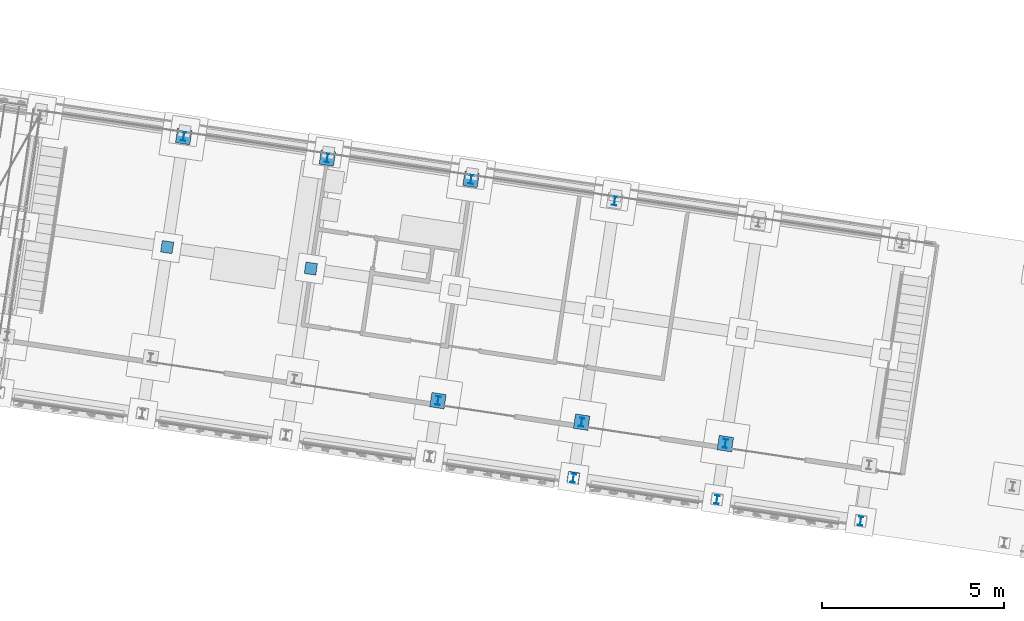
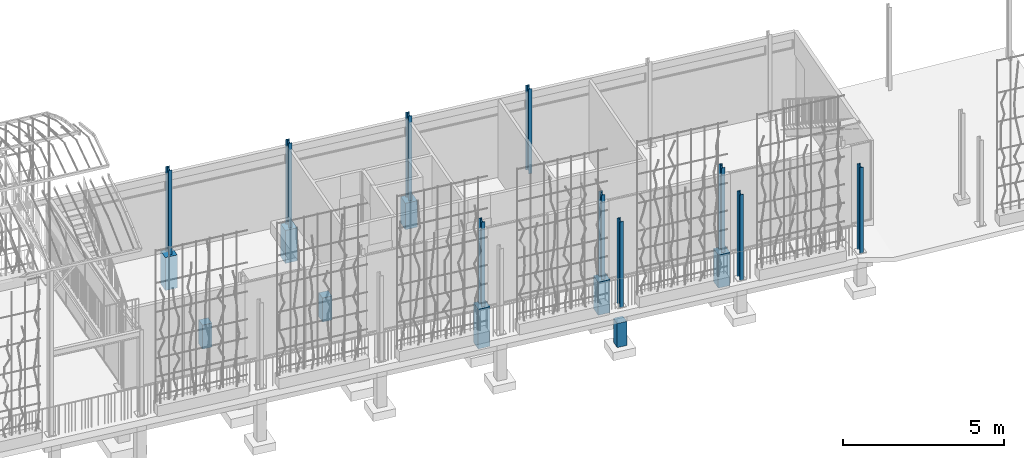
# One storey, part 4 of 142: 19 columns, 1 element without a shape of its own.
"""IFC4 building model written with IfcOpenShell, lengths in metres."""

from ifc_helpers import new_model, si_unit, direction, frame, origin_with_axes, place, context, subcontext, project, spatial, polyline, i_section, outline, extrude, material, material_profile, profile_set, profile_usage, type_object, element, aggregate, save


model = new_model("IFC4")

# Units and contexts
model_context = context("Model", 3, precision=1e-05, world=origin_with_axes(), true_north=direction((0.0, 1.0)))
body_context = subcontext(model_context, "Body", "Model", "MODEL_VIEW")
ifc_project = project(units=[si_unit("LENGTHUNIT", "METRE"), si_unit("AREAUNIT", "SQUARE_METRE"), si_unit("VOLUMEUNIT", "CUBIC_METRE")], contexts=[model_context])

# Site, building, storey
site_placement = place(None, origin_with_axes())
site = spatial("IfcSite", under=ifc_project, at=site_placement, Name="Lares · Rua das Mercês · artigo 4771")
building_placement = place(site_placement, frame((15.0, 9.7, 14.65), z_axis=(0.0, 0.0, 1.0), x_axis=(0.989015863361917, -0.147809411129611, 0.0)))
building = spatial("IfcBuilding", under=site, at=building_placement, Name="Casa Sobreposta")
storey_placement = place(building_placement, origin_with_axes())
storey = spatial("IfcBuildingStorey", under=building, at=storey_placement, Name="00 · Habitação e estacionamento", Elevation=14.65)

# Columns
ifc_material_1 = material(Name="Aço pintado / Stahl lackiert", Category="steel")
ifc_material_profile = material_profile(ifc_material_1, i_section(OverallWidth=0.12, OverallDepth=0.24, WebThickness=0.0062, FlangeThickness=0.0098))
ifc_profile_set = profile_set([ifc_material_profile], Name="IPE240")
ifc_profile_usage_1 = profile_usage(ifc_profile_set)
column_type = type_object("IfcColumnType", Name="IPE240 / steel", PredefinedType="NOTDEFINED", material=ifc_profile_set)
column_1_placement = place(storey_placement, frame((4.0, 6.28, 0.0), z_axis=(0.0, 0.0, 1.0), x_axis=(1.0, 0.0, 0.0)))
element("IfcColumn", 1, at=column_1_placement, inside=storey, type_object=column_type, material=ifc_profile_usage_1, Name="Pilar 2B · IPE240", context=body_context, shape_type="SweptSolid", body=[
    extrude(i_section(OverallWidth=0.12, OverallDepth=0.24, WebThickness=0.0062, FlangeThickness=0.0098), origin_with_axes(), (0.0, 0.0, 1.0), 3.208),
])
ifc_profile_usage_2 = profile_usage(ifc_profile_set)
column_2_placement = place(storey_placement, frame((8.0, 6.28, 0.0), z_axis=(0.0, 0.0, 1.0), x_axis=(1.0, 0.0, 0.0)))
element("IfcColumn", 2, at=column_2_placement, inside=storey, type_object=column_type, material=ifc_profile_usage_2, Name="Pilar 3B · IPE240", context=body_context, shape_type="SweptSolid", body=[
    extrude(i_section(OverallWidth=0.12, OverallDepth=0.24, WebThickness=0.0062, FlangeThickness=0.0098), origin_with_axes(), (0.0, 0.0, 1.0), 3.208),
])
ifc_profile_usage_3 = profile_usage(ifc_profile_set)
column_3_placement = place(storey_placement, frame((12.0, 0.12, 0.0), z_axis=(0.0, 0.0, 1.0), x_axis=(1.0, 0.0, 0.0)))
element("IfcColumn", 3, at=column_3_placement, inside=storey, type_object=column_type, material=ifc_profile_usage_3, Name="Pilar 4A · IPE240", context=body_context, shape_type="SweptSolid", body=[
    extrude(i_section(OverallWidth=0.12, OverallDepth=0.24, WebThickness=0.0062, FlangeThickness=0.0098), origin_with_axes(), (0.0, 0.0, 1.0), 3.208),
])
ifc_profile_usage_4 = profile_usage(ifc_profile_set)
column_4_placement = place(storey_placement, frame((12.0, 6.28, 0.0), z_axis=(0.0, 0.0, 1.0), x_axis=(1.0, 0.0, 0.0)))
element("IfcColumn", 4, at=column_4_placement, inside=storey, type_object=column_type, material=ifc_profile_usage_4, Name="Pilar 4B · IPE240", context=body_context, shape_type="SweptSolid", body=[
    extrude(i_section(OverallWidth=0.12, OverallDepth=0.24, WebThickness=0.0062, FlangeThickness=0.0098), origin_with_axes(), (0.0, 0.0, 1.0), 3.208),
])
ifc_profile_usage_5 = profile_usage(ifc_profile_set)
column_5_placement = place(storey_placement, frame((16.0, 0.12, 0.0), z_axis=(0.0, 0.0, 1.0), x_axis=(1.0, 0.0, 0.0)))
element("IfcColumn", 5, at=column_5_placement, inside=storey, type_object=column_type, material=ifc_profile_usage_5, Name="Pilar 5A · IPE240", context=body_context, shape_type="SweptSolid", body=[
    extrude(i_section(OverallWidth=0.12, OverallDepth=0.24, WebThickness=0.0062, FlangeThickness=0.0098), origin_with_axes(), (0.0, 0.0, 1.0), 3.208),
])
ifc_profile_usage_6 = profile_usage(ifc_profile_set)
column_6_placement = place(storey_placement, frame((16.0, 6.28, 0.0), z_axis=(0.0, 0.0, 1.0), x_axis=(1.0, 0.0, 0.0)))
element("IfcColumn", 6, at=column_6_placement, inside=storey, type_object=column_type, material=ifc_profile_usage_6, Name="Pilar 5B · IPE240", context=body_context, shape_type="SweptSolid", body=[
    extrude(i_section(OverallWidth=0.12, OverallDepth=0.24, WebThickness=0.0062, FlangeThickness=0.0098), origin_with_axes(), (0.0, 0.0, 1.0), 3.208),
])
ifc_profile_usage_7 = profile_usage(ifc_profile_set)
column_7_placement = place(storey_placement, frame((20.0, 0.12, 0.0), z_axis=(0.0, 0.0, 1.0), x_axis=(1.0, 0.0, 0.0)))
element("IfcColumn", 7, at=column_7_placement, inside=storey, type_object=column_type, material=ifc_profile_usage_7, Name="Pilar 6A · IPE240", context=body_context, shape_type="SweptSolid", body=[
    extrude(i_section(OverallWidth=0.12, OverallDepth=0.24, WebThickness=0.0062, FlangeThickness=0.0098), origin_with_axes(), (0.0, 0.0, 1.0), 3.208),
])
ifc_profile_usage_8 = profile_usage(ifc_profile_set)
column_8_placement = place(storey_placement, frame((16.0, -1.44, -0.04), z_axis=(0.0, 0.0, 1.0), x_axis=(1.0, 0.0, 0.0)))
element("IfcColumn", 8, at=column_8_placement, inside=storey, type_object=column_type, material=ifc_profile_usage_8, Name="Projeção estufa · pilar sul ao pódio", context=body_context, shape_type="SweptSolid", body=[
    extrude(i_section(OverallWidth=0.12, OverallDepth=0.24, WebThickness=0.0062, FlangeThickness=0.0098), origin_with_axes(), (0.0, 0.0, 1.0), 3.248),
])
ifc_profile_usage_9 = profile_usage(ifc_profile_set)
column_9_placement = place(storey_placement, frame((20.0, -1.44, -0.04), z_axis=(0.0, 0.0, 1.0), x_axis=(1.0, 0.0, 0.0)))
element("IfcColumn", 9, at=column_9_placement, inside=storey, type_object=column_type, material=ifc_profile_usage_9, Name="Projeção estufa · pilar sul ao pódio", context=body_context, shape_type="SweptSolid", body=[
    extrude(i_section(OverallWidth=0.12, OverallDepth=0.24, WebThickness=0.0062, FlangeThickness=0.0098), origin_with_axes(), (0.0, 0.0, 1.0), 3.248),
])
ifc_profile_usage_10 = profile_usage(ifc_profile_set)
column_10_placement = place(storey_placement, frame((24.0, -1.44, -0.04), z_axis=(0.0, 0.0, 1.0), x_axis=(1.0, 0.0, 0.0)))
element("IfcColumn", 10, at=column_10_placement, inside=storey, type_object=column_type, material=ifc_profile_usage_10, Name="Projeção estufa · pilar sul ao pódio", context=body_context, shape_type="SweptSolid", body=[
    extrude(i_section(OverallWidth=0.12, OverallDepth=0.24, WebThickness=0.0062, FlangeThickness=0.0098), origin_with_axes(), (0.0, 0.0, 1.0), 3.248),
])
ifc_material_2 = material(Name="Betão armado / Stahlbeton", Category="concrete")
column_11_placement = place(storey_placement, frame((0.0, 0.0, -1.25), z_axis=(0.0, 0.0, 1.0), x_axis=(1.0, 0.0, 0.0)))
element("IfcColumn", 11, at=column_11_placement, inside=storey, material=ifc_material_2, Name="Pedestal 2B · betão 400 x 400", context=body_context, shape_type="SweptSolid", body=[
    extrude(outline(polyline([(4.2, 6.08), (4.2, 6.48), (3.8, 6.48), (3.8, 6.08), (4.2, 6.08)])), origin_with_axes(), (0.0, 0.0, 1.0), 1.25),
])
column_12_placement = place(storey_placement, frame((0.0, 0.0, -1.25), z_axis=(0.0, 0.0, 1.0), x_axis=(1.0, 0.0, 0.0)))
element("IfcColumn", 12, at=column_12_placement, inside=storey, material=ifc_material_2, Name="Pedestal 3B · betão 400 x 400", context=body_context, shape_type="SweptSolid", body=[
    extrude(outline(polyline([(8.2, 6.08), (8.2, 6.48), (7.8, 6.48), (7.8, 6.08), (8.2, 6.08)])), origin_with_axes(), (0.0, 0.0, 1.0), 1.25),
])
column_13_placement = place(storey_placement, frame((0.0, 0.0, -1.5), z_axis=(0.0, 0.0, 1.0), x_axis=(1.0, 0.0, 0.0)))
element("IfcColumn", 13, at=column_13_placement, inside=storey, material=ifc_material_2, Name="Pedestal 4A · betão 400 x 400", context=body_context, shape_type="SweptSolid", body=[
    extrude(outline(polyline([(12.2, -0.08), (12.2, 0.32), (11.8, 0.32), (11.8, -0.08), (12.2, -0.08)])), origin_with_axes(), (0.0, 0.0, 1.0), 1.5),
])
column_14_placement = place(storey_placement, frame((0.0, 0.0, -1.0), z_axis=(0.0, 0.0, 1.0), x_axis=(1.0, 0.0, 0.0)))
element("IfcColumn", 14, at=column_14_placement, inside=storey, material=ifc_material_2, Name="Pedestal 4B · betão 400 x 400", context=body_context, shape_type="SweptSolid", body=[
    extrude(outline(polyline([(12.2, 6.08), (12.2, 6.48), (11.8, 6.48), (11.8, 6.08), (12.2, 6.08)])), origin_with_axes(), (0.0, 0.0, 1.0), 1.0),
])
column_15_placement = place(storey_placement, frame((0.0, 0.0, -1.25), z_axis=(0.0, 0.0, 1.0), x_axis=(1.0, 0.0, 0.0)))
element("IfcColumn", 15, at=column_15_placement, inside=storey, material=ifc_material_2, Name="Pedestal 5A · betão 400 x 400", context=body_context, shape_type="SweptSolid", body=[
    extrude(outline(polyline([(16.2, -0.08), (16.2, 0.32), (15.8, 0.32), (15.8, -0.08), (16.2, -0.08)])), origin_with_axes(), (0.0, 0.0, 1.0), 1.25),
])
column_16_placement = place(storey_placement, frame((0.0, 0.0, -1.25), z_axis=(0.0, 0.0, 1.0), x_axis=(1.0, 0.0, 0.0)))
element("IfcColumn", 16, at=column_16_placement, inside=storey, material=ifc_material_2, Name="Pedestal 6A · betão 400 x 400", context=body_context, shape_type="SweptSolid", body=[
    extrude(outline(polyline([(20.2, -0.08), (20.2, 0.32), (19.8, 0.32), (19.8, -0.08), (20.2, -0.08)])), origin_with_axes(), (0.0, 0.0, 1.0), 1.25),
])

# Assembly, columns
assembly_placement = place(storey_placement, origin_with_axes())
assembly = element("IfcElementAssembly", 17, at=assembly_placement, inside=storey, Name="Pódio · terraço, casa térrea e cisterna", ObjectType="CISTERN_PODIUM", PredefinedType="USERDEFINED")
column_17_placement = place(assembly_placement, frame((0.0, 0.0, -1.5), z_axis=(0.0, 0.0, 1.0), x_axis=(1.0, 0.0, 0.0)))
column_17 = element("IfcColumn", 18, at=column_17_placement, material=ifc_material_2, Name="Pódio suspenso · apoio sobre o terreno", context=body_context, shape_type="SweptSolid", body=[
    extrude(outline(polyline([(4.16, 3.04), (4.16, 3.36), (3.84, 3.36), (3.84, 3.04), (4.16, 3.04)])), origin_with_axes(), (0.0, 0.0, 1.0), 0.91),
])
column_18_placement = place(assembly_placement, frame((0.0, 0.0, -1.5), z_axis=(0.0, 0.0, 1.0), x_axis=(1.0, 0.0, 0.0)))
column_18 = element("IfcColumn", 19, at=column_18_placement, material=ifc_material_2, Name="Pódio suspenso · apoio sobre o terreno", context=body_context, shape_type="SweptSolid", body=[
    extrude(outline(polyline([(8.16, 3.04), (8.16, 3.36), (7.84, 3.36), (7.84, 3.04), (8.16, 3.04)])), origin_with_axes(), (0.0, 0.0, 1.0), 0.91),
])
column_19_placement = place(assembly_placement, frame((0.0, 0.0, -1.5), z_axis=(0.0, 0.0, 1.0), x_axis=(1.0, 0.0, 0.0)))
column_19 = element("IfcColumn", 20, at=column_19_placement, material=ifc_material_2, Name="Pódio suspenso · apoio sobre o terreno", context=body_context, shape_type="SweptSolid", body=[
    extrude(outline(polyline([(16.16, -1.59), (16.16, -1.27), (15.84, -1.27), (15.84, -1.59), (16.16, -1.59)])), origin_with_axes(), (0.0, 0.0, 1.0), 0.91),
])
aggregate(assembly, [column_17, column_18, column_19])

save(model, "model.ifc")
